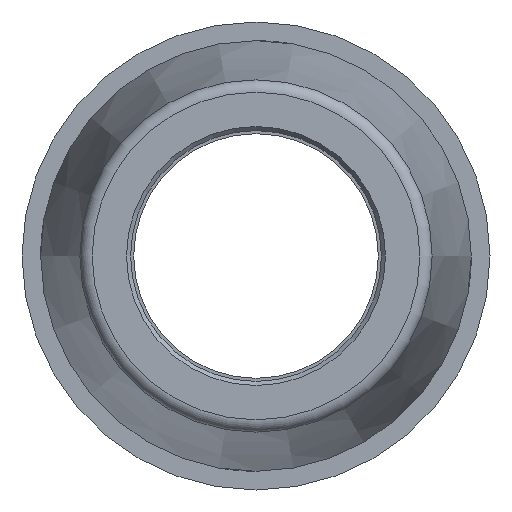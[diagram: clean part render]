
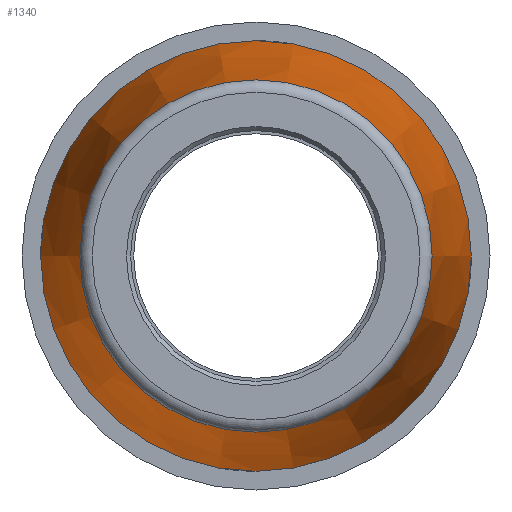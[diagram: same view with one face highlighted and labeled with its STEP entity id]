
A CAD part, left-side view. The second image highlights one B-rep face of the part: STEP entity #1340.
In plain terms, the highlighted conical face has half-angle 7.643 degrees and reference radius 50 mm.
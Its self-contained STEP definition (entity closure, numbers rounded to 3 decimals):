
#294=FACE_BOUND('',#418,.T.);
#324=FACE_OUTER_BOUND('',#417,.T.);
#417=EDGE_LOOP('',(#957));
#418=EDGE_LOOP('',(#958));
#527=CIRCLE('',#1436,45.172);
#528=CIRCLE('',#1438,55.2);
#623=VERTEX_POINT('',#2089);
#624=VERTEX_POINT('',#2092);
#759=EDGE_CURVE('',#623,#623,#527,.T.);
#760=EDGE_CURVE('',#624,#624,#528,.T.);
#957=ORIENTED_EDGE('',*,*,#760,.F.);
#958=ORIENTED_EDGE('',*,*,#759,.F.);
#1331=CONICAL_SURFACE('',#1437,50.,7.643);
#1340=ADVANCED_FACE('',(#324,#294),#1331,.T.);
#1436=AXIS2_PLACEMENT_3D('',#2090,#1635,#1636);
#1437=AXIS2_PLACEMENT_3D('',#2091,#1637,#1638);
#1438=AXIS2_PLACEMENT_3D('',#2093,#1639,#1640);
#1635=DIRECTION('center_axis',(-1.,0.,0.));
#1636=DIRECTION('ref_axis',(0.,-1.,0.));
#1637=DIRECTION('center_axis',(1.,0.,0.));
#1638=DIRECTION('ref_axis',(0.,1.,0.));
#1639=DIRECTION('center_axis',(1.,0.,0.));
#1640=DIRECTION('ref_axis',(0.,0.,-1.));
#2089=CARTESIAN_POINT('',(-152.226,45.172,0.));
#2090=CARTESIAN_POINT('Origin',(-152.226,0.,0.));
#2091=CARTESIAN_POINT('Origin',(-116.25,0.,0.));
#2092=CARTESIAN_POINT('',(-77.5,55.2,0.));
#2093=CARTESIAN_POINT('Origin',(-77.5,0.,0.));
